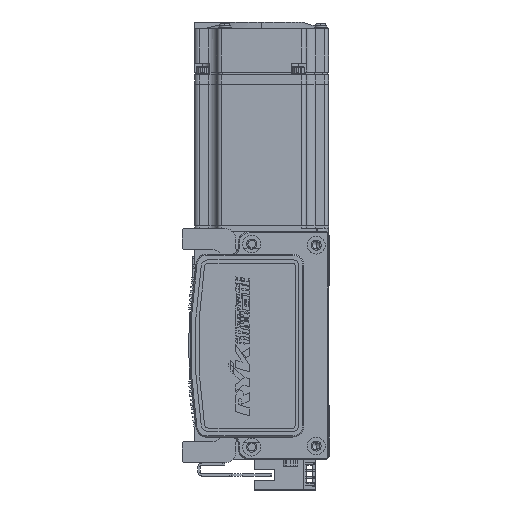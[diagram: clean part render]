
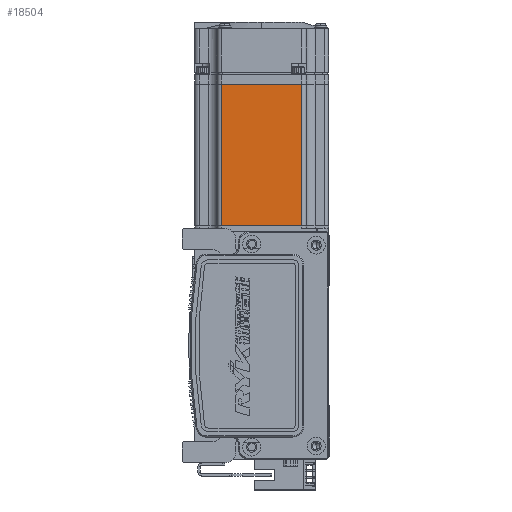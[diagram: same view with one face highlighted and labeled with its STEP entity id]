
A CAD part, left-side view. The second image highlights one B-rep face of the part: STEP entity #18504.
In plain terms, the highlighted planar face has unit normal (-1, 0, 0) as drawn and (0, 0, -1) by its records, which use the part's own axes.
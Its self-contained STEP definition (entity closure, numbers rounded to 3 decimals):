
#1391 = ORIENTED_EDGE ( 'NONE', *, *, #12115, .T. ) ;
#3158 = CARTESIAN_POINT ( 'NONE',  ( -7.75, 18., -30. ) ) ;
#3239 = DIRECTION ( 'NONE',  ( 0., 1., 0. ) ) ;
#7703 = CARTESIAN_POINT ( 'NONE',  ( -6.5, 25., -30. ) ) ;
#9236 = EDGE_LOOP ( 'NONE', ( #1391, #53065, #21495, #61862 ) ) ;
#9262 = VERTEX_POINT ( 'NONE', #44376 ) ;
#12115 = EDGE_CURVE ( 'NONE', #21647, #57798, #20977, .T. ) ;
#12839 = EDGE_CURVE ( 'NONE', #9262, #21647, #42729, .T. ) ;
#17982 = DIRECTION ( 'NONE',  ( -1., 0., 0. ) ) ;
#18460 = PLANE ( 'NONE',  #25817 ) ;
#18504 = ADVANCED_FACE ( 'NONE', ( #33509 ), #18460, .T. ) ;
#18992 = CARTESIAN_POINT ( 'NONE',  ( -70.95, -18., -30. ) ) ;
#19402 = CARTESIAN_POINT ( 'NONE',  ( -6.5, 18., -30. ) ) ;
#19947 = VECTOR ( 'NONE', #3239, 1000. ) ;
#20908 = CARTESIAN_POINT ( 'NONE',  ( -7.75, -18., -30. ) ) ;
#20977 = LINE ( 'NONE', #43045, #62010 ) ;
#21495 = ORIENTED_EDGE ( 'NONE', *, *, #40162, .T. ) ;
#21647 = VERTEX_POINT ( 'NONE', #3158 ) ;
#25202 = LINE ( 'NONE', #52014, #31011 ) ;
#25817 = AXIS2_PLACEMENT_3D ( 'NONE', #7703, #61226, #17982 ) ;
#28463 = VECTOR ( 'NONE', #40940, 1000. ) ;
#30528 = CARTESIAN_POINT ( 'NONE',  ( -70.95, 25., -30. ) ) ;
#30743 = VERTEX_POINT ( 'NONE', #18992 ) ;
#31011 = VECTOR ( 'NONE', #51313, 1000. ) ;
#33509 = FACE_OUTER_BOUND ( 'NONE', #9236, .T. ) ;
#35852 = LINE ( 'NONE', #30528, #19947 ) ;
#38342 = DIRECTION ( 'NONE',  ( 0., -1., 0. ) ) ;
#40162 = EDGE_CURVE ( 'NONE', #30743, #9262, #35852, .T. ) ;
#40940 = DIRECTION ( 'NONE',  ( 1., 0., 0. ) ) ;
#42729 = LINE ( 'NONE', #19402, #28463 ) ;
#43045 = CARTESIAN_POINT ( 'NONE',  ( -7.75, 25., -30. ) ) ;
#44376 = CARTESIAN_POINT ( 'NONE',  ( -70.95, 18., -30. ) ) ;
#51313 = DIRECTION ( 'NONE',  ( -1., 0., 0. ) ) ;
#52014 = CARTESIAN_POINT ( 'NONE',  ( -6.5, -18., -30. ) ) ;
#53065 = ORIENTED_EDGE ( 'NONE', *, *, #57696, .T. ) ;
#57696 = EDGE_CURVE ( 'NONE', #57798, #30743, #25202, .T. ) ;
#57798 = VERTEX_POINT ( 'NONE', #20908 ) ;
#61226 = DIRECTION ( 'NONE',  ( 0., 0., -1. ) ) ;
#61862 = ORIENTED_EDGE ( 'NONE', *, *, #12839, .T. ) ;
#62010 = VECTOR ( 'NONE', #38342, 1000. ) ;
